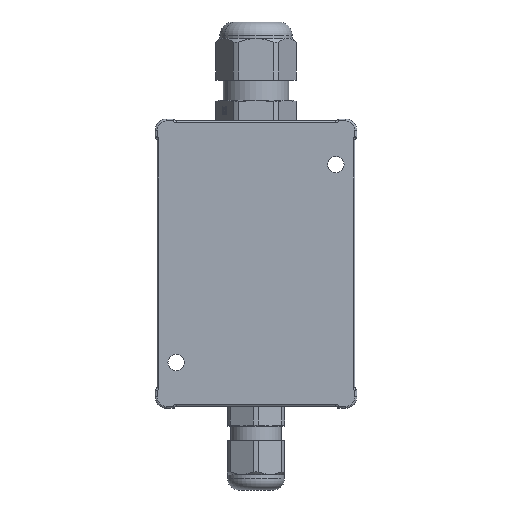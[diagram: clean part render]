
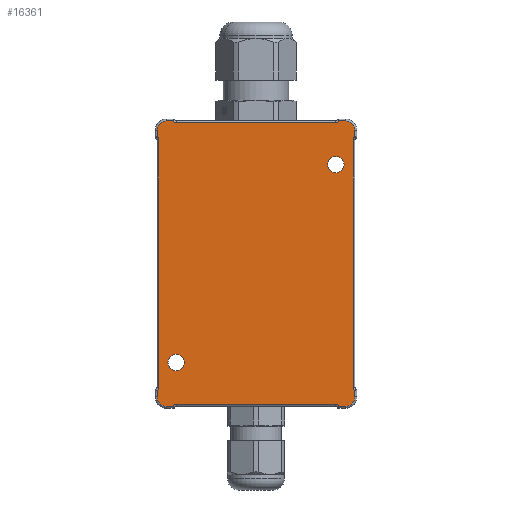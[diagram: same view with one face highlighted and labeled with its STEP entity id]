
A CAD part, front view. The second image highlights one B-rep face of the part: STEP entity #16361.
In plain terms, the highlighted planar face has unit normal (0, -1, 0).
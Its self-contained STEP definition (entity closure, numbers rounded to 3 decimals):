
#766=CARTESIAN_POINT('',(-21.866,-3.,-37.5));
#810=CARTESIAN_POINT('',(23.5,-3.,-35.));
#811=DIRECTION('',(0.,1.,0.));
#812=DIRECTION('',(1.,0.,0.));
#813=AXIS2_PLACEMENT_3D('',#810,#811,#812);
#818=DIRECTION('',(1.,0.,0.));
#819=VECTOR('',#818,1.634);
#820=CARTESIAN_POINT('',(21.866,-3.,-37.5));
#821=LINE('',#820,#819);
#825=CARTESIAN_POINT('',(21.,-3.,-38.));
#826=DIRECTION('',(0.,-1.,0.));
#827=DIRECTION('',(0.866,0.,0.5));
#828=AXIS2_PLACEMENT_3D('',#825,#826,#827);
#833=DIRECTION('',(-1.,0.,0.));
#834=VECTOR('',#833,42.);
#835=CARTESIAN_POINT('',(21.,-3.,-37.));
#836=LINE('',#835,#834);
#840=CARTESIAN_POINT('',(-21.,-3.,-38.));
#841=DIRECTION('',(0.,-1.,0.));
#842=DIRECTION('',(0.,0.,1.));
#843=AXIS2_PLACEMENT_3D('',#840,#841,#842);
#848=DIRECTION('',(1.,0.,0.));
#849=VECTOR('',#848,1.634);
#850=CARTESIAN_POINT('',(-23.5,-3.,-37.5));
#851=LINE('',#850,#849);
#855=CARTESIAN_POINT('',(-23.5,-3.,-35.));
#856=DIRECTION('',(0.,1.,0.));
#857=DIRECTION('',(0.,0.,-1.));
#858=AXIS2_PLACEMENT_3D('',#855,#856,#857);
#863=DIRECTION('',(0.,0.,-1.));
#864=VECTOR('',#863,1.634);
#865=CARTESIAN_POINT('',(-26.,-3.,-33.366));
#866=LINE('',#865,#864);
#870=CARTESIAN_POINT('',(-26.5,-3.,-32.5));
#871=DIRECTION('',(0.,-1.,0.));
#872=DIRECTION('',(0.5,0.,-0.866));
#873=AXIS2_PLACEMENT_3D('',#870,#871,#872);
#878=DIRECTION('',(0.,0.,1.));
#879=VECTOR('',#878,65.);
#880=CARTESIAN_POINT('',(-25.5,-3.,-32.5));
#881=LINE('',#880,#879);
#885=CARTESIAN_POINT('',(-26.5,-3.,32.5));
#886=DIRECTION('',(0.,-1.,0.));
#887=DIRECTION('',(1.,0.,0.));
#888=AXIS2_PLACEMENT_3D('',#885,#886,#887);
#893=DIRECTION('',(0.,0.,-1.));
#894=VECTOR('',#893,1.634);
#895=CARTESIAN_POINT('',(-26.,-3.,35.));
#896=LINE('',#895,#894);
#900=CARTESIAN_POINT('',(-23.5,-3.,35.));
#901=DIRECTION('',(0.,1.,0.));
#902=DIRECTION('',(-1.,0.,0.));
#903=AXIS2_PLACEMENT_3D('',#900,#901,#902);
#908=DIRECTION('',(-1.,0.,0.));
#909=VECTOR('',#908,1.634);
#910=CARTESIAN_POINT('',(-21.866,-3.,37.5));
#911=LINE('',#910,#909);
#915=CARTESIAN_POINT('',(-21.,-3.,38.));
#916=DIRECTION('',(0.,-1.,0.));
#917=DIRECTION('',(-0.866,0.,-0.5));
#918=AXIS2_PLACEMENT_3D('',#915,#916,#917);
#923=DIRECTION('',(1.,0.,0.));
#924=VECTOR('',#923,42.);
#925=CARTESIAN_POINT('',(-21.,-3.,37.));
#926=LINE('',#925,#924);
#930=CARTESIAN_POINT('',(21.,-3.,38.));
#931=DIRECTION('',(0.,-1.,0.));
#932=DIRECTION('',(0.,0.,-1.));
#933=AXIS2_PLACEMENT_3D('',#930,#931,#932);
#938=DIRECTION('',(-1.,0.,0.));
#939=VECTOR('',#938,1.634);
#940=CARTESIAN_POINT('',(23.5,-3.,37.5));
#941=LINE('',#940,#939);
#945=CARTESIAN_POINT('',(23.5,-3.,35.));
#946=DIRECTION('',(0.,1.,0.));
#947=DIRECTION('',(0.,0.,1.));
#948=AXIS2_PLACEMENT_3D('',#945,#946,#947);
#953=DIRECTION('',(0.,0.,1.));
#954=VECTOR('',#953,1.634);
#955=CARTESIAN_POINT('',(26.,-3.,33.366));
#956=LINE('',#955,#954);
#960=CARTESIAN_POINT('',(26.5,-3.,32.5));
#961=DIRECTION('',(0.,-1.,0.));
#962=DIRECTION('',(-0.5,0.,0.866));
#963=AXIS2_PLACEMENT_3D('',#960,#961,#962);
#968=DIRECTION('',(0.,0.,-1.));
#969=VECTOR('',#968,65.);
#970=CARTESIAN_POINT('',(25.5,-3.,32.5));
#971=LINE('',#970,#969);
#975=CARTESIAN_POINT('',(26.5,-3.,-32.5));
#976=DIRECTION('',(0.,-1.,0.));
#977=DIRECTION('',(-1.,0.,0.));
#978=AXIS2_PLACEMENT_3D('',#975,#976,#977);
#983=DIRECTION('',(0.,0.,1.));
#984=VECTOR('',#983,1.634);
#985=CARTESIAN_POINT('',(26.,-3.,-35.));
#986=LINE('',#985,#984);
#990=CARTESIAN_POINT('',(21.,-3.,26.));
#991=DIRECTION('',(0.,1.,0.));
#992=DIRECTION('',(1.,0.,0.));
#993=AXIS2_PLACEMENT_3D('',#990,#991,#992);
#998=CARTESIAN_POINT('',(21.,-3.,26.));
#999=DIRECTION('',(0.,1.,0.));
#1000=DIRECTION('',(-1.,0.,0.));
#1001=AXIS2_PLACEMENT_3D('',#998,#999,#1000);
#1006=CARTESIAN_POINT('',(-21.,-3.,-26.));
#1007=DIRECTION('',(0.,1.,0.));
#1008=DIRECTION('',(1.,0.,0.));
#1009=AXIS2_PLACEMENT_3D('',#1006,#1007,#1008);
#1014=CARTESIAN_POINT('',(-21.,-3.,-26.));
#1015=DIRECTION('',(0.,1.,0.));
#1016=DIRECTION('',(-1.,0.,0.));
#1017=AXIS2_PLACEMENT_3D('',#1014,#1015,#1016);
#1356=CARTESIAN_POINT('',(26.,-3.,-33.366));
#1963=CARTESIAN_POINT('',(-21.866,-3.,37.5));
#2232=CARTESIAN_POINT('',(-26.,-3.,-33.366));
#13819=VERTEX_POINT('',#2232);
#13821=VERTEX_POINT('',#1963);
#13822=VERTEX_POINT('',#1356);
#13824=VERTEX_POINT('',#766);
#13827=CARTESIAN_POINT('',(23.5,-3.,-37.5));
#13829=VERTEX_POINT('',#13827);
#13830=CARTESIAN_POINT('',(26.,-3.,-35.));
#13831=VERTEX_POINT('',#13830);
#13834=CARTESIAN_POINT('',(-23.5,-3.,-37.5));
#13835=CARTESIAN_POINT('',(-26.,-3.,-35.));
#13836=VERTEX_POINT('',#13834);
#13837=VERTEX_POINT('',#13835);
#13841=CARTESIAN_POINT('',(26.,-3.,35.));
#13843=VERTEX_POINT('',#13841);
#13844=CARTESIAN_POINT('',(23.5,-3.,37.5));
#13845=VERTEX_POINT('',#13844);
#13849=CARTESIAN_POINT('',(-23.5,-3.,37.5));
#13851=VERTEX_POINT('',#13849);
#13852=CARTESIAN_POINT('',(-26.,-3.,35.));
#13853=VERTEX_POINT('',#13852);
#13854=CARTESIAN_POINT('',(26.,-3.,33.366));
#13855=VERTEX_POINT('',#13854);
#13858=CARTESIAN_POINT('',(21.866,-3.,-37.5));
#13859=VERTEX_POINT('',#13858);
#13868=CARTESIAN_POINT('',(-26.,-3.,33.366));
#13869=VERTEX_POINT('',#13868);
#13872=CARTESIAN_POINT('',(21.866,-3.,37.5));
#13873=VERTEX_POINT('',#13872);
#13876=CARTESIAN_POINT('',(21.,-3.,-37.));
#13877=VERTEX_POINT('',#13876);
#13880=CARTESIAN_POINT('',(-21.,-3.,-37.));
#13881=VERTEX_POINT('',#13880);
#13884=CARTESIAN_POINT('',(25.5,-3.,32.5));
#13885=VERTEX_POINT('',#13884);
#13888=CARTESIAN_POINT('',(25.5,-3.,-32.5));
#13889=VERTEX_POINT('',#13888);
#13892=CARTESIAN_POINT('',(-21.,-3.,37.));
#13893=VERTEX_POINT('',#13892);
#13896=CARTESIAN_POINT('',(21.,-3.,37.));
#13897=VERTEX_POINT('',#13896);
#13900=CARTESIAN_POINT('',(-25.5,-3.,-32.5));
#13901=VERTEX_POINT('',#13900);
#13904=CARTESIAN_POINT('',(-25.5,-3.,32.5));
#13905=VERTEX_POINT('',#13904);
#13958=CARTESIAN_POINT('',(-18.85,-3.,-26.));
#13959=CARTESIAN_POINT('',(-23.15,-3.,-26.));
#13960=VERTEX_POINT('',#13958);
#13961=VERTEX_POINT('',#13959);
#13966=CARTESIAN_POINT('',(23.15,-3.,26.));
#13967=CARTESIAN_POINT('',(18.85,-3.,26.));
#13968=VERTEX_POINT('',#13966);
#13969=VERTEX_POINT('',#13967);
#16299=CARTESIAN_POINT('',(0.,-3.,0.));
#16300=DIRECTION('',(0.,-1.,0.));
#16301=DIRECTION('',(1.,0.,0.));
#16302=AXIS2_PLACEMENT_3D('',#16299,#16300,#16301);
#16303=PLANE('',#16302);
#16305=ORIENTED_EDGE('',*,*,#16304,.T.);
#16307=ORIENTED_EDGE('',*,*,#16306,.F.);
#16308=ORIENTED_EDGE('',*,*,#16201,.T.);
#16309=ORIENTED_EDGE('',*,*,#16223,.T.);
#16310=ORIENTED_EDGE('',*,*,#16243,.T.);
#16311=ORIENTED_EDGE('',*,*,#16264,.F.);
#16312=ORIENTED_EDGE('',*,*,#16283,.T.);
#16314=ORIENTED_EDGE('',*,*,#16313,.F.);
#16316=ORIENTED_EDGE('',*,*,#16315,.T.);
#16318=ORIENTED_EDGE('',*,*,#16317,.T.);
#16320=ORIENTED_EDGE('',*,*,#16319,.T.);
#16322=ORIENTED_EDGE('',*,*,#16321,.F.);
#16324=ORIENTED_EDGE('',*,*,#16323,.T.);
#16326=ORIENTED_EDGE('',*,*,#16325,.F.);
#16328=ORIENTED_EDGE('',*,*,#16327,.T.);
#16330=ORIENTED_EDGE('',*,*,#16329,.T.);
#16332=ORIENTED_EDGE('',*,*,#16331,.T.);
#16334=ORIENTED_EDGE('',*,*,#16333,.F.);
#16336=ORIENTED_EDGE('',*,*,#16335,.T.);
#16338=ORIENTED_EDGE('',*,*,#16337,.F.);
#16340=ORIENTED_EDGE('',*,*,#16339,.T.);
#16342=ORIENTED_EDGE('',*,*,#16341,.T.);
#16344=ORIENTED_EDGE('',*,*,#16343,.T.);
#16346=ORIENTED_EDGE('',*,*,#16345,.F.);
#16347=EDGE_LOOP('',(#16305,#16307,#16308,#16309,#16310,#16311,#16312,#16314,
#16316,#16318,#16320,#16322,#16324,#16326,#16328,#16330,#16332,#16334,#16336,
#16338,#16340,#16342,#16344,#16346));
#16348=FACE_OUTER_BOUND('',#16347,.F.);
#16350=ORIENTED_EDGE('',*,*,#16349,.F.);
#16352=ORIENTED_EDGE('',*,*,#16351,.F.);
#16353=EDGE_LOOP('',(#16350,#16352));
#16354=FACE_BOUND('',#16353,.F.);
#16356=ORIENTED_EDGE('',*,*,#16355,.F.);
#16358=ORIENTED_EDGE('',*,*,#16357,.F.);
#16359=EDGE_LOOP('',(#16356,#16358));
#16360=FACE_BOUND('',#16359,.F.);
#814=CIRCLE('',#813,2.5);
#829=CIRCLE('',#828,1.);
#844=CIRCLE('',#843,1.);
#859=CIRCLE('',#858,2.5);
#874=CIRCLE('',#873,1.);
#889=CIRCLE('',#888,1.);
#904=CIRCLE('',#903,2.5);
#919=CIRCLE('',#918,1.);
#934=CIRCLE('',#933,1.);
#949=CIRCLE('',#948,2.5);
#964=CIRCLE('',#963,1.);
#979=CIRCLE('',#978,1.);
#994=CIRCLE('',#993,2.15);
#1002=CIRCLE('',#1001,2.15);
#1010=CIRCLE('',#1009,2.15);
#1018=CIRCLE('',#1017,2.15);
#16201=EDGE_CURVE('',#13859,#13877,#829,.T.);
#16223=EDGE_CURVE('',#13877,#13881,#836,.T.);
#16243=EDGE_CURVE('',#13881,#13824,#844,.T.);
#16264=EDGE_CURVE('',#13836,#13824,#851,.T.);
#16283=EDGE_CURVE('',#13836,#13837,#859,.T.);
#16304=EDGE_CURVE('',#13831,#13829,#814,.T.);
#16306=EDGE_CURVE('',#13859,#13829,#821,.T.);
#16313=EDGE_CURVE('',#13819,#13837,#866,.T.);
#16315=EDGE_CURVE('',#13819,#13901,#874,.T.);
#16317=EDGE_CURVE('',#13901,#13905,#881,.T.);
#16319=EDGE_CURVE('',#13905,#13869,#889,.T.);
#16321=EDGE_CURVE('',#13853,#13869,#896,.T.);
#16323=EDGE_CURVE('',#13853,#13851,#904,.T.);
#16325=EDGE_CURVE('',#13821,#13851,#911,.T.);
#16327=EDGE_CURVE('',#13821,#13893,#919,.T.);
#16329=EDGE_CURVE('',#13893,#13897,#926,.T.);
#16331=EDGE_CURVE('',#13897,#13873,#934,.T.);
#16333=EDGE_CURVE('',#13845,#13873,#941,.T.);
#16335=EDGE_CURVE('',#13845,#13843,#949,.T.);
#16337=EDGE_CURVE('',#13855,#13843,#956,.T.);
#16339=EDGE_CURVE('',#13855,#13885,#964,.T.);
#16341=EDGE_CURVE('',#13885,#13889,#971,.T.);
#16343=EDGE_CURVE('',#13889,#13822,#979,.T.);
#16345=EDGE_CURVE('',#13831,#13822,#986,.T.);
#16349=EDGE_CURVE('',#13968,#13969,#994,.T.);
#16351=EDGE_CURVE('',#13969,#13968,#1002,.T.);
#16355=EDGE_CURVE('',#13960,#13961,#1010,.T.);
#16357=EDGE_CURVE('',#13961,#13960,#1018,.T.);
#16361=ADVANCED_FACE('',(#16348,#16354,#16360),#16303,.T.);
